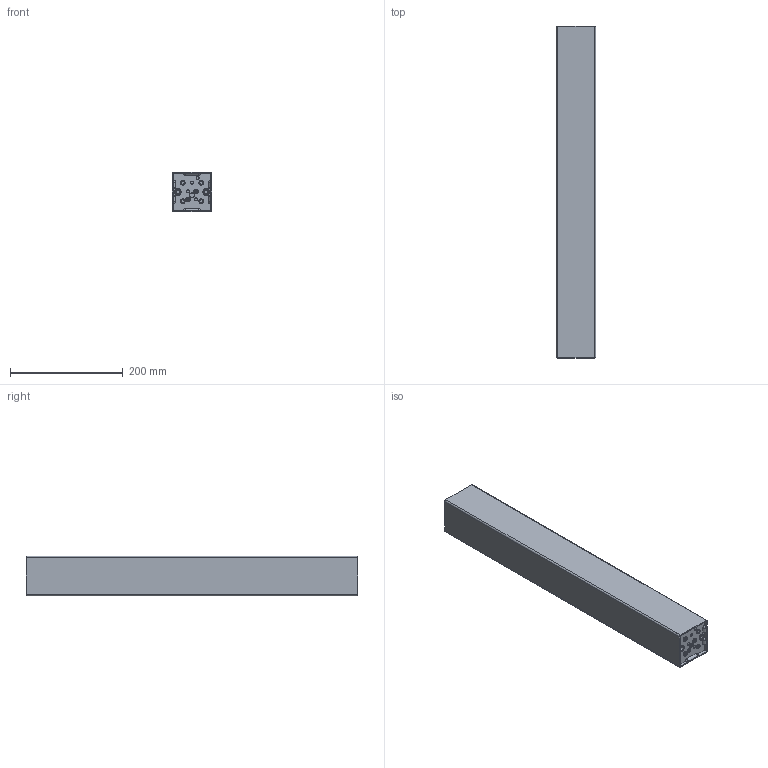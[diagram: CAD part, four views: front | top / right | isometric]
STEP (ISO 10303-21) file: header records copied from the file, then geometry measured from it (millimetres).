
FILE_DESCRIPTION((''),'2;1');
FILE_NAME('1029W7903-A-18-2_AF0','2020-08-21T08:59:22',('mbes'),(''),'CREO PARAMETRIC BY PTC INC, 2019344','CREO PARAMETRIC BY PTC INC, 2019344','');
FILE_SCHEMA(('AUTOMOTIVE_DESIGN { 1 0 10303 214 1 1 1 1 }'));
Length unit declared in the file: millimetre
Products named in the file (1): 1029W7903-A-18-2_AF0
Bounding box: 70 x 590 x 70 mm (x, y, z)
Volume: 2858946.4 mm3; surface area: 177813.1 mm2
Topology: 1 solids, 3 shells, 381 faces, 1006 edges, 644 vertices
Faces by surface type: cylinder 172, plane 133, torus 48, bspline 16, cone 12
Entity records: 12619 total; most frequent: CARTESIAN_POINT 2730, DIRECTION 2178, ORIENTED_EDGE 2012, EDGE_CURVE 1006, AXIS2_PLACEMENT_3D 830, VERTEX_POINT 644, VECTOR 518, LINE 518
